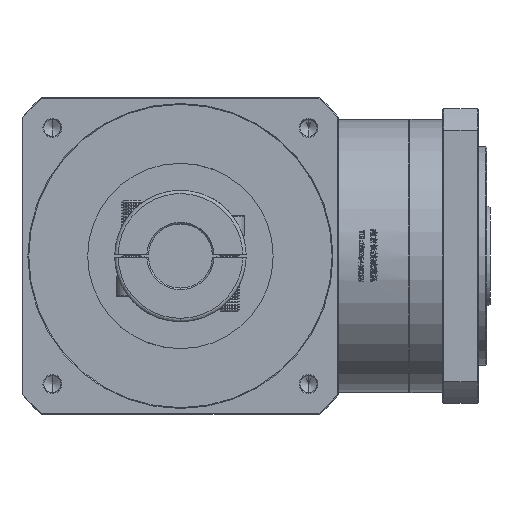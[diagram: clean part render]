
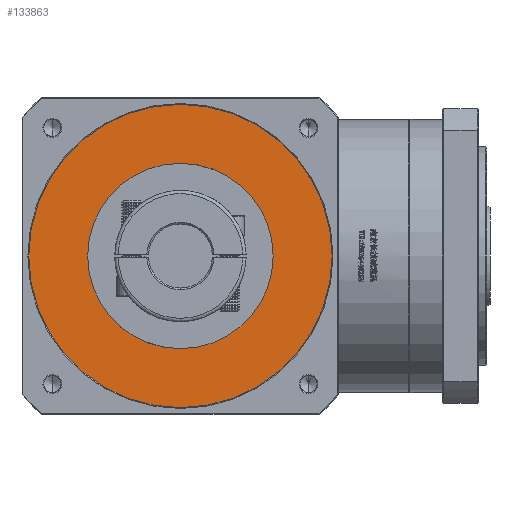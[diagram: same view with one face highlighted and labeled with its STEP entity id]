
A CAD part, front view. The second image highlights one B-rep face of the part: STEP entity #133863.
In plain terms, the highlighted planar face has unit normal (0, -1, 0).
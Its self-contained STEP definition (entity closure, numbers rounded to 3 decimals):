
#8475 = ORIENTED_EDGE ( 'NONE', *, *, #39605, .T. ) ;
#12788 = DIRECTION ( 'NONE',  ( 0., 1., 0. ) ) ;
#12799 = EDGE_CURVE ( 'NONE', #57402, #14651, #20360, .T. ) ;
#14651 = VERTEX_POINT ( 'NONE', #80116 ) ;
#16587 = CARTESIAN_POINT ( 'NONE',  ( -48.04, -229.987, 265.089 ) ) ;
#20360 = CIRCLE ( 'NONE', #61521, 90. ) ;
#20482 = EDGE_LOOP ( 'NONE', ( #40255, #48715 ) ) ;
#24239 = CARTESIAN_POINT ( 'NONE',  ( 6.96, -229.987, 265.089 ) ) ;
#39213 = AXIS2_PLACEMENT_3D ( 'NONE', #112118, #12788, #68146 ) ;
#39605 = EDGE_CURVE ( 'NONE', #97464, #78388, #60656, .T. ) ;
#40255 = ORIENTED_EDGE ( 'NONE', *, *, #50148, .T. ) ;
#43275 = EDGE_LOOP ( 'NONE', ( #110618, #8475 ) ) ;
#48715 = ORIENTED_EDGE ( 'NONE', *, *, #12799, .T. ) ;
#50148 = EDGE_CURVE ( 'NONE', #14651, #57402, #73111, .T. ) ;
#50364 = DIRECTION ( 'NONE',  ( 0., -1., 0. ) ) ;
#50854 = FACE_BOUND ( 'NONE', #43275, .T. ) ;
#51340 = DIRECTION ( 'NONE',  ( 1., 0., 0. ) ) ;
#52258 = CARTESIAN_POINT ( 'NONE',  ( -138.04, -229.987, 265.089 ) ) ;
#54383 = FACE_OUTER_BOUND ( 'NONE', #20482, .T. ) ;
#57402 = VERTEX_POINT ( 'NONE', #52258 ) ;
#60023 = CARTESIAN_POINT ( 'NONE',  ( -48.04, -229.987, 265.089 ) ) ;
#60656 = CIRCLE ( 'NONE', #103215, 55. ) ;
#61521 = AXIS2_PLACEMENT_3D ( 'NONE', #16587, #83667, #95389 ) ;
#68146 = DIRECTION ( 'NONE',  ( 1., 0., 0. ) ) ;
#73111 = CIRCLE ( 'NONE', #86876, 90. ) ;
#78388 = VERTEX_POINT ( 'NONE', #24239 ) ;
#80116 = CARTESIAN_POINT ( 'NONE',  ( 41.96, -229.987, 265.089 ) ) ;
#81043 = AXIS2_PLACEMENT_3D ( 'NONE', #118321, #50364, #51340 ) ;
#83667 = DIRECTION ( 'NONE',  ( 0., -1., 0. ) ) ;
#85990 = PLANE ( 'NONE',  #81043 ) ;
#86876 = AXIS2_PLACEMENT_3D ( 'NONE', #138274, #103534, #92742 ) ;
#92742 = DIRECTION ( 'NONE',  ( 1., 0., 0. ) ) ;
#95389 = DIRECTION ( 'NONE',  ( 1., 0., 0. ) ) ;
#97464 = VERTEX_POINT ( 'NONE', #106534 ) ;
#103215 = AXIS2_PLACEMENT_3D ( 'NONE', #60023, #127974, #115225 ) ;
#103534 = DIRECTION ( 'NONE',  ( 0., -1., 0. ) ) ;
#106534 = CARTESIAN_POINT ( 'NONE',  ( -103.04, -229.987, 265.089 ) ) ;
#110618 = ORIENTED_EDGE ( 'NONE', *, *, #123231, .T. ) ;
#112118 = CARTESIAN_POINT ( 'NONE',  ( -48.04, -229.987, 265.089 ) ) ;
#114445 = CIRCLE ( 'NONE', #39213, 55. ) ;
#115225 = DIRECTION ( 'NONE',  ( 1., 0., 0. ) ) ;
#118321 = CARTESIAN_POINT ( 'NONE',  ( -48.04, -229.987, 265.089 ) ) ;
#123231 = EDGE_CURVE ( 'NONE', #78388, #97464, #114445, .T. ) ;
#127974 = DIRECTION ( 'NONE',  ( 0., 1., 0. ) ) ;
#133863 = ADVANCED_FACE ( 'NONE', ( #54383, #50854 ), #85990, .T. ) ;
#138274 = CARTESIAN_POINT ( 'NONE',  ( -48.04, -229.987, 265.089 ) ) ;
